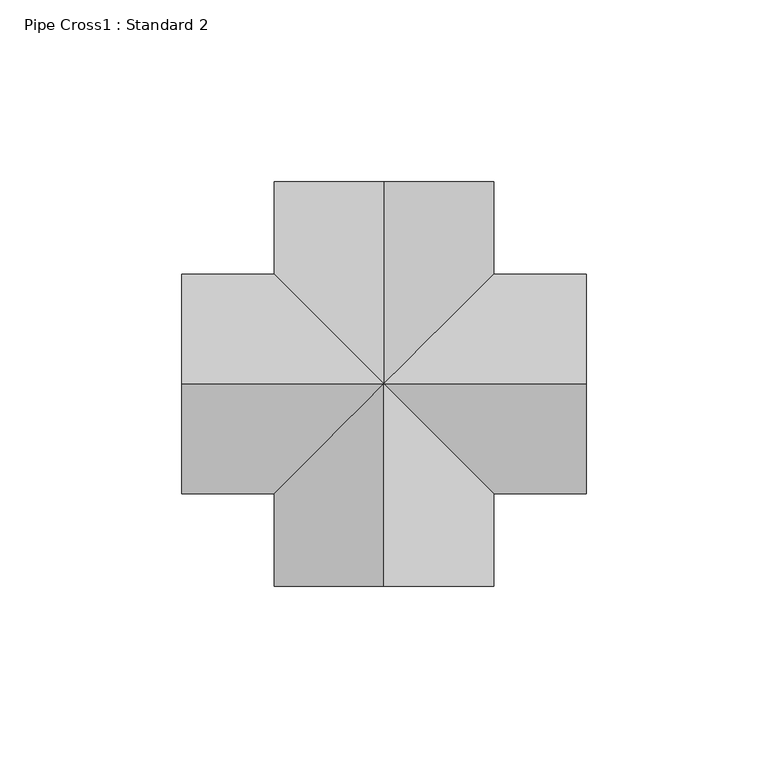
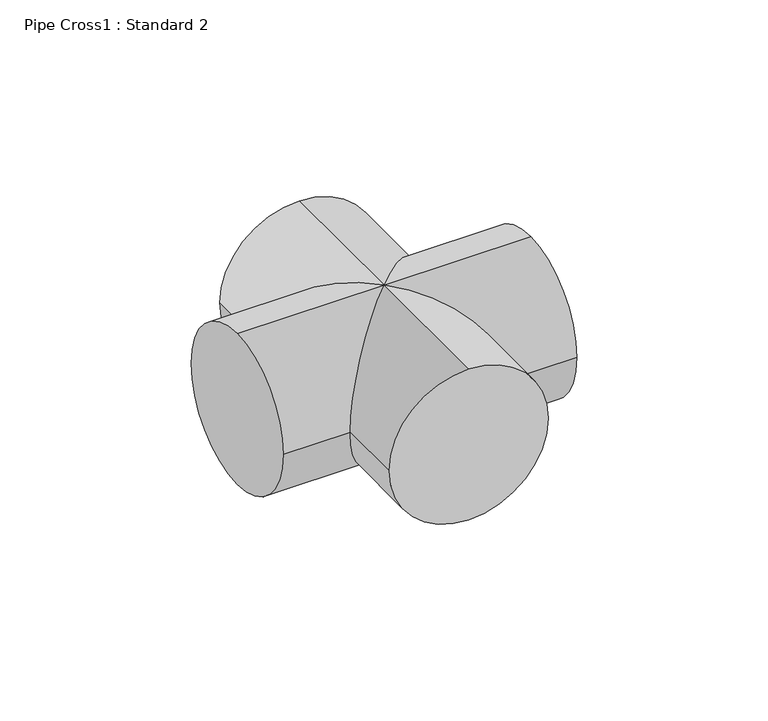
"""IFC4 building model written with IfcOpenShell, lengths in millimetres: pipe fitting geometry, Pipe Cross1 : Standard 2."""

from ifc_helpers import new_model, si_unit, frame, origin, place, context, project, spatial, circle_curve, ellipse_curve, source, transform, mapped, element, save
from ifc_brep_helpers import plane_surface, cylinder_surface, advanced_brep


def pipe_cross1_standard_2_39504a02(model_context):
    return source(origin(), model_context, "Body", "AdvancedBrep", [
        advanced_brep(
        [(0.0, -55.5625, 30.1625), (-30.1625, -55.5625, 0.0), (0.0, -55.5625, -30.1625), (30.1625, -55.5625, 0.0), (30.1625, -30.1625, 0.0), (0.0, 0.0, 30.1625), (0.0, 0.0, -30.1625), (-30.1625, -30.1625, 0.0), (-55.5625, 0.0, 30.1625), (-55.5625, 30.1625, 0.0), (-55.5625, 0.0, -30.1625), (-55.5625, -30.1625, 0.0), (55.5625, 0.0, 30.1625), (55.5625, -30.1625, 0.0), (55.5625, 0.0, -30.1625), (55.5625, 30.1625, 0.0), (-30.1625, 30.1625, 0.0), (30.1625, 30.1625, 0.0), (0.0, 55.5625, 30.1625), (30.1625, 55.5625, 0.0), (0.0, 55.5625, -30.1625), (-30.1625, 55.5625, 0.0)],
        [
            (0, 1, circle_curve(frame((0.0, -55.5625, 0.0), z_axis=(0.0, -1.0, 0.0), x_axis=(1.0, 0.0, 0.0)), 30.1625)),
            (1, 2, circle_curve(frame((0.0, -55.5625, 0.0), z_axis=(0.0, -1.0, 0.0), x_axis=(1.0, 0.0, 0.0)), 30.1625)),
            (2, 3, circle_curve(frame((0.0, -55.5625, 0.0), z_axis=(0.0, -1.0, 0.0), x_axis=(1.0, 0.0, 0.0)), 30.1625)),
            (3, 0, circle_curve(frame((0.0, -55.5625, 0.0), z_axis=(0.0, -1.0, 0.0), x_axis=(1.0, 0.0, 0.0)), 30.1625)),
            (3, 4),
            (4, 5, ellipse_curve(frame((0.0, 0.0, 0.0), z_axis=(-0.707106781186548, -0.7071067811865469, 0.0), x_axis=(-0.7071067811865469, 0.7071067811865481, 0.0)), 42.6562166, 30.1625)),
            (5, 0),
            (2, 6),
            (6, 4, ellipse_curve(frame((0.0, 0.0, 0.0), z_axis=(-0.707106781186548, -0.7071067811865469, 0.0), x_axis=(-0.7071067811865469, 0.7071067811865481, 0.0)), 42.6562166, 30.1625)),
            (1, 7),
            (7, 6, ellipse_curve(frame((0.0, 0.0, 0.0), z_axis=(0.707106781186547, -0.7071067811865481, 0.0), x_axis=(0.7071067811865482, 0.7071067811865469, 0.0)), 42.6562166, 30.1625)),
            (5, 7, ellipse_curve(frame((0.0, 0.0, 0.0), z_axis=(0.707106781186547, -0.7071067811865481, 0.0), x_axis=(0.7071067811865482, 0.7071067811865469, 0.0)), 42.6562166, 30.1625)),
            (8, 9, circle_curve(frame((-55.5625, 0.0, 0.0), z_axis=(-1.0, 0.0, 0.0), x_axis=(0.0, 1.0, 0.0)), 30.1625)),
            (9, 10, circle_curve(frame((-55.5625, 0.0, 0.0), z_axis=(-1.0, 0.0, 0.0), x_axis=(0.0, 1.0, 0.0)), 30.1625)),
            (10, 11, circle_curve(frame((-55.5625, 0.0, 0.0), z_axis=(-1.0, 0.0, 0.0), x_axis=(0.0, 1.0, 0.0)), 30.1625)),
            (11, 8, circle_curve(frame((-55.5625, 0.0, 0.0), z_axis=(-1.0, 0.0, 0.0), x_axis=(0.0, 1.0, 0.0)), 30.1625)),
            (12, 13, circle_curve(frame((55.5625, 0.0, 0.0), z_axis=(1.0, 0.0, 0.0), x_axis=(0.0, 1.0, 0.0)), 30.1625)),
            (13, 14, circle_curve(frame((55.5625, 0.0, 0.0), z_axis=(1.0, 0.0, 0.0), x_axis=(0.0, 1.0, 0.0)), 30.1625)),
            (14, 15, circle_curve(frame((55.5625, 0.0, 0.0), z_axis=(1.0, 0.0, 0.0), x_axis=(0.0, 1.0, 0.0)), 30.1625)),
            (15, 12, circle_curve(frame((55.5625, 0.0, 0.0), z_axis=(1.0, 0.0, 0.0), x_axis=(0.0, 1.0, 0.0)), 30.1625)),
            (8, 5),
            (5, 16, ellipse_curve(frame((0.0, 0.0, 0.0), z_axis=(-0.7071067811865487, -0.7071067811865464, 0.0), x_axis=(-0.7071067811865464, 0.7071067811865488, 0.0)), 42.6562166, 30.1625)),
            (16, 9),
            (15, 17),
            (17, 5, ellipse_curve(frame((0.0, 0.0, 0.0), z_axis=(0.7071067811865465, -0.7071067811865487, 0.0), x_axis=(-0.7071067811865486, -0.7071067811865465, 0.0)), 42.6562166, 30.1625)),
            (5, 12),
            (16, 6, ellipse_curve(frame((0.0, 0.0, 0.0), z_axis=(-0.7071067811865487, -0.7071067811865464, 0.0), x_axis=(-0.7071067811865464, 0.7071067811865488, 0.0)), 42.6562166, 30.1625)),
            (6, 10),
            (14, 6),
            (6, 17, ellipse_curve(frame((0.0, 0.0, 0.0), z_axis=(0.7071067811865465, -0.7071067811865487, 0.0), x_axis=(-0.7071067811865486, -0.7071067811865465, 0.0)), 42.6562166, 30.1625)),
            (7, 11),
            (13, 4),
            (18, 19, circle_curve(frame((0.0, 55.5625, 0.0), z_axis=(0.0, 1.0, 0.0), x_axis=(-1.0, 0.0, 0.0)), 30.1625)),
            (19, 20, circle_curve(frame((0.0, 55.5625, 0.0), z_axis=(0.0, 1.0, 0.0), x_axis=(-1.0, 0.0, 0.0)), 30.1625)),
            (20, 21, circle_curve(frame((0.0, 55.5625, 0.0), z_axis=(0.0, 1.0, 0.0), x_axis=(-1.0, 0.0, 0.0)), 30.1625)),
            (21, 18, circle_curve(frame((0.0, 55.5625, 0.0), z_axis=(0.0, 1.0, 0.0), x_axis=(-1.0, 0.0, 0.0)), 30.1625)),
            (21, 16),
            (5, 18),
            (20, 6),
            (19, 17),
        ],
        [
            plane_surface(frame((0.0, -55.5625, 0.0), z_axis=(0.0, -1.0, 0.0), x_axis=(0.0, 0.0, 1.0))),
            cylinder_surface(frame((0.0, 0.0, 0.0), z_axis=(0.0, 1.0, 0.0), x_axis=(1.0, 0.0, 0.0)), 30.1625),
            plane_surface(frame((-55.5625, 0.0, 0.0), z_axis=(-1.0, 0.0, 0.0), x_axis=(0.0, 0.0, 1.0))),
            plane_surface(frame((55.5625, 0.0, 0.0), z_axis=(1.0, 0.0, 0.0), x_axis=(0.0, 0.0, 1.0))),
            cylinder_surface(frame((-55.5625, 0.0, 0.0), z_axis=(-1.0, 0.0, 0.0), x_axis=(0.0, 1.0, 0.0)), 30.1625),
            plane_surface(frame((0.0, 55.5625, 0.0), z_axis=(0.0, 1.0, 0.0), x_axis=(0.0, 0.0, 1.0))),
            cylinder_surface(frame((0.0, 0.0, 0.0), z_axis=(0.0, -1.0, 0.0), x_axis=(-1.0, 0.0, 0.0)), 30.1625),
        ],
        [
            (0, [[1, 2, 3, 4]]),
            (1, [[-4, 5, 6, 7]]),
            (1, [[-3, 8, 9, -5]]),
            (1, [[-2, 10, 11, -8]]),
            (1, [[-1, -7, 12, -10]]),
            (2, [[13, 14, 15, 16]]),
            (3, [[17, 18, 19, 20]]),
            (4, [[-13, 21, 22, 23]]),
            (4, [[-20, 24, 25, 26]]),
            (4, [[-14, -23, 27, 28]]),
            (4, [[-19, 29, 30, -24]]),
            (4, [[-15, -28, -11, 31]]),
            (4, [[-18, 32, -9, -29]]),
            (4, [[-16, -31, -12, -21]]),
            (4, [[-17, -26, -6, -32]]),
            (5, [[33, 34, 35, 36]]),
            (6, [[-36, 37, -22, 38]]),
            (6, [[-35, 39, -27, -37]]),
            (6, [[-34, 40, -30, -39]]),
            (6, [[-33, -38, -25, -40]]),
        ],
    ),
        advanced_brep(
        [(0.0, -55.5625, 30.1625), (-30.1625, -55.5625, 0.0), (0.0, -55.5625, -30.1625), (30.1625, -55.5625, 0.0), (30.1625, -30.1625, 0.0), (0.0, 0.0, 30.1625), (0.0, 0.0, -30.1625), (-30.1625, -30.1625, 0.0), (-55.5625, 0.0, 30.1625), (-55.5625, 30.1625, 0.0), (-55.5625, 0.0, -30.1625), (-55.5625, -30.1625, 0.0), (55.5625, 0.0, 30.1625), (55.5625, -30.1625, 0.0), (55.5625, 0.0, -30.1625), (55.5625, 30.1625, 0.0), (-30.1625, 30.1625, 0.0), (30.1625, 30.1625, 0.0), (0.0, 55.5625, 30.1625), (30.1625, 55.5625, 0.0), (0.0, 55.5625, -30.1625), (-30.1625, 55.5625, 0.0)],
        [
            (0, 1, circle_curve(frame((0.0, -55.5625, 0.0), z_axis=(0.0, -1.0, 0.0), x_axis=(1.0, 0.0, 0.0)), 30.1625)),
            (1, 2, circle_curve(frame((0.0, -55.5625, 0.0), z_axis=(0.0, -1.0, 0.0), x_axis=(1.0, 0.0, 0.0)), 30.1625)),
            (2, 3, circle_curve(frame((0.0, -55.5625, 0.0), z_axis=(0.0, -1.0, 0.0), x_axis=(1.0, 0.0, 0.0)), 30.1625)),
            (3, 0, circle_curve(frame((0.0, -55.5625, 0.0), z_axis=(0.0, -1.0, 0.0), x_axis=(1.0, 0.0, 0.0)), 30.1625)),
            (3, 4),
            (4, 5, ellipse_curve(frame((0.0, 0.0, 0.0), z_axis=(-0.7071067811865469, -0.7071067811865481, 0.0), x_axis=(-0.7071067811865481, 0.7071067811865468, 0.0)), 42.6562166, 30.1625)),
            (5, 0),
            (2, 6),
            (6, 4, ellipse_curve(frame((0.0, 0.0, 0.0), z_axis=(-0.7071067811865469, -0.7071067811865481, 0.0), x_axis=(-0.7071067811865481, 0.7071067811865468, 0.0)), 42.6562166, 30.1625)),
            (1, 7),
            (7, 6, ellipse_curve(frame((0.0, 0.0, 0.0), z_axis=(0.707106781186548, -0.7071067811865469, 0.0), x_axis=(0.7071067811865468, 0.7071067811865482, 0.0)), 42.6562166, 30.1625)),
            (5, 7, ellipse_curve(frame((0.0, 0.0, 0.0), z_axis=(0.707106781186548, -0.7071067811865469, 0.0), x_axis=(0.7071067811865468, 0.7071067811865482, 0.0)), 42.6562166, 30.1625)),
            (8, 9, circle_curve(frame((-55.5625, 0.0, 0.0), z_axis=(-1.0, 0.0, 0.0), x_axis=(0.0, 1.0, 0.0)), 30.1625)),
            (9, 10, circle_curve(frame((-55.5625, 0.0, 0.0), z_axis=(-1.0, 0.0, 0.0), x_axis=(0.0, 1.0, 0.0)), 30.1625)),
            (10, 11, circle_curve(frame((-55.5625, 0.0, 0.0), z_axis=(-1.0, 0.0, 0.0), x_axis=(0.0, 1.0, 0.0)), 30.1625)),
            (11, 8, circle_curve(frame((-55.5625, 0.0, 0.0), z_axis=(-1.0, 0.0, 0.0), x_axis=(0.0, 1.0, 0.0)), 30.1625)),
            (12, 13, circle_curve(frame((55.5625, 0.0, 0.0), z_axis=(1.0, 0.0, 0.0), x_axis=(0.0, 1.0, 0.0)), 30.1625)),
            (13, 14, circle_curve(frame((55.5625, 0.0, 0.0), z_axis=(1.0, 0.0, 0.0), x_axis=(0.0, 1.0, 0.0)), 30.1625)),
            (14, 15, circle_curve(frame((55.5625, 0.0, 0.0), z_axis=(1.0, 0.0, 0.0), x_axis=(0.0, 1.0, 0.0)), 30.1625)),
            (15, 12, circle_curve(frame((55.5625, 0.0, 0.0), z_axis=(1.0, 0.0, 0.0), x_axis=(0.0, 1.0, 0.0)), 30.1625)),
            (8, 5),
            (5, 16, ellipse_curve(frame((0.0, 0.0, 0.0), z_axis=(-0.7071067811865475, -0.7071067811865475, 0.0), x_axis=(-0.7071067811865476, 0.7071067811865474, 0.0)), 42.6562166, 30.1625)),
            (16, 9),
            (15, 17),
            (17, 5, ellipse_curve(frame((0.0, 0.0, 0.0), z_axis=(0.7071067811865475, -0.7071067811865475, 0.0), x_axis=(-0.7071067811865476, -0.7071067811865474, 0.0)), 42.6562166, 30.1625)),
            (5, 12),
            (16, 6, ellipse_curve(frame((0.0, 0.0, 0.0), z_axis=(-0.7071067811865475, -0.7071067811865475, 0.0), x_axis=(-0.7071067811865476, 0.7071067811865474, 0.0)), 42.6562166, 30.1625)),
            (6, 10),
            (14, 6),
            (6, 17, ellipse_curve(frame((0.0, 0.0, 0.0), z_axis=(0.7071067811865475, -0.7071067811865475, 0.0), x_axis=(-0.7071067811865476, -0.7071067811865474, 0.0)), 42.6562166, 30.1625)),
            (7, 11),
            (13, 4),
            (18, 19, circle_curve(frame((0.0, 55.5625, 0.0), z_axis=(0.0, 1.0, 0.0), x_axis=(1.0, 0.0, 0.0)), 30.1625)),
            (19, 20, circle_curve(frame((0.0, 55.5625, 0.0), z_axis=(0.0, 1.0, 0.0), x_axis=(1.0, 0.0, 0.0)), 30.1625)),
            (20, 21, circle_curve(frame((0.0, 55.5625, 0.0), z_axis=(0.0, 1.0, 0.0), x_axis=(1.0, 0.0, 0.0)), 30.1625)),
            (21, 18, circle_curve(frame((0.0, 55.5625, 0.0), z_axis=(0.0, 1.0, 0.0), x_axis=(1.0, 0.0, 0.0)), 30.1625)),
            (18, 5),
            (17, 19),
            (6, 20),
            (16, 21),
        ],
        [
            plane_surface(frame((0.0, -55.5625, 0.0), z_axis=(0.0, -1.0, 0.0), x_axis=(0.0, 0.0, 1.0))),
            cylinder_surface(frame((0.0, 0.0, 0.0), z_axis=(0.0, 1.0, 0.0), x_axis=(1.0, 0.0, 0.0)), 30.1625),
            plane_surface(frame((-55.5625, 0.0, 0.0), z_axis=(-1.0, 0.0, 0.0), x_axis=(0.0, 0.0, 1.0))),
            plane_surface(frame((55.5625, 0.0, 0.0), z_axis=(1.0, 0.0, 0.0), x_axis=(0.0, 0.0, 1.0))),
            cylinder_surface(frame((-55.5625, 0.0, 0.0), z_axis=(-1.0, 0.0, 0.0), x_axis=(0.0, 1.0, 0.0)), 30.1625),
            plane_surface(frame((0.0, 55.5625, 0.0), z_axis=(0.0, 1.0, 0.0), x_axis=(0.0, 0.0, 1.0))),
            cylinder_surface(frame((0.0, 55.5625, 0.0), z_axis=(0.0, 1.0, 0.0), x_axis=(1.0, 0.0, 0.0)), 30.1625),
        ],
        [
            (0, [[1, 2, 3, 4]]),
            (1, [[-4, 5, 6, 7]]),
            (1, [[-3, 8, 9, -5]]),
            (1, [[-2, 10, 11, -8]]),
            (1, [[-1, -7, 12, -10]]),
            (2, [[13, 14, 15, 16]]),
            (3, [[17, 18, 19, 20]]),
            (4, [[-13, 21, 22, 23]]),
            (4, [[-20, 24, 25, 26]]),
            (4, [[-14, -23, 27, 28]]),
            (4, [[-19, 29, 30, -24]]),
            (4, [[-15, -28, -11, 31]]),
            (4, [[-18, 32, -9, -29]]),
            (4, [[-16, -31, -12, -21]]),
            (4, [[-17, -26, -6, -32]]),
            (5, [[33, 34, 35, 36]]),
            (6, [[-33, 37, -25, 38]]),
            (6, [[-34, -38, -30, 39]]),
            (6, [[-35, -39, -27, 40]]),
            (6, [[-36, -40, -22, -37]]),
        ],
    ),
    ])


if __name__ == "__main__":
    model = new_model("IFC4")
    model_context = context("Model", 3, world=origin())
    ifc_project = project(units=[si_unit("LENGTHUNIT", "METRE", prefix="MILLI")], contexts=[model_context])
    site = spatial("IfcSite", under=ifc_project)
    building = spatial("IfcBuilding", under=site)
    placement = place(None, origin())
    pipe_cross1_standard_2_shape = pipe_cross1_standard_2_39504a02(model_context)
    element("IfcPipeFitting", 1, ObjectType="Pipe Cross1 : Standard 2", at=placement, inside=building, context=model_context, shape_type="MappedRepresentation", body=[
        mapped(pipe_cross1_standard_2_shape, transform((0.0, 0.0, 0.0), x_axis=(1.0, 0.0, 0.0), y_axis=(0.0, 1.0, 0.0), z_axis=(0.0, 0.0, 1.0))),
    ])
    save(model, "model.ifc")
